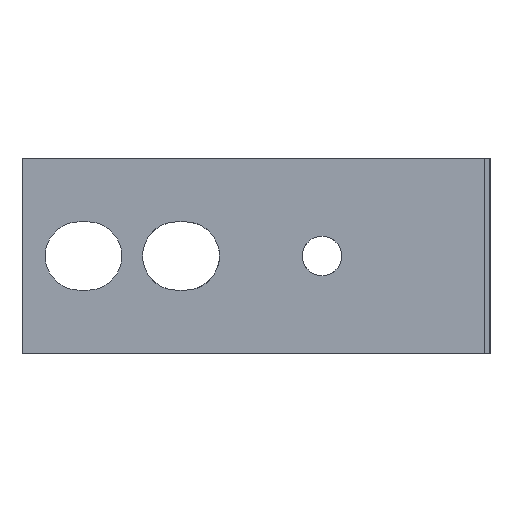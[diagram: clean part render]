
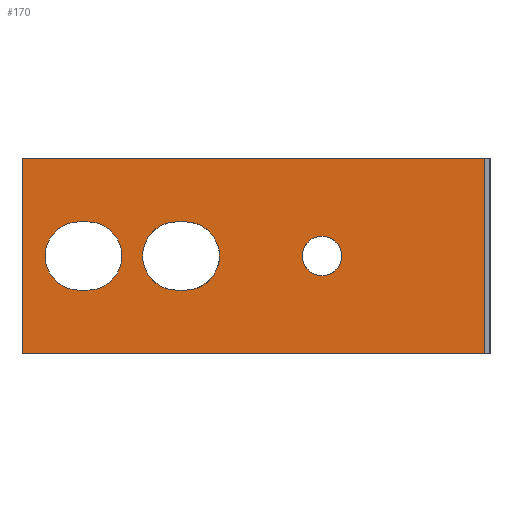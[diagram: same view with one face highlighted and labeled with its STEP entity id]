
A CAD part, left-side view. The second image highlights one B-rep face of the part: STEP entity #170.
In plain terms, the highlighted planar face has unit normal (-1, 0, 0).
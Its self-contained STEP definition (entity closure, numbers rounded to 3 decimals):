
#160 = EDGE_CURVE( '', #166, #268, #448, .T. );
#164 = EDGE_CURVE( '', #288, #300, #453, .T. );
#166 = VERTEX_POINT( '', #455 );
#170 = ADVANCED_FACE( '', ( #460, #461, #462, #463 ), #464, .T. );
#186 = VERTEX_POINT( '', #480 );
#190 = EDGE_CURVE( '', #300, #288, #484, .T. );
#204 = EDGE_CURVE( '', #272, #226, #500, .T. );
#212 = VERTEX_POINT( '', #511 );
#218 = VERTEX_POINT( '', #517 );
#226 = VERTEX_POINT( '', #525 );
#236 = EDGE_CURVE( '', #212, #186, #536, .T. );
#242 = VERTEX_POINT( '', #543 );
#246 = VERTEX_POINT( '', #547 );
#250 = EDGE_CURVE( '', #226, #306, #551, .T. );
#268 = VERTEX_POINT( '', #570 );
#272 = VERTEX_POINT( '', #575 );
#288 = VERTEX_POINT( '', #595 );
#290 = EDGE_CURVE( '', #388, #268, #597, .T. );
#300 = VERTEX_POINT( '', #607 );
#302 = EDGE_CURVE( '', #186, #218, #609, .T. );
#306 = VERTEX_POINT( '', #615 );
#322 = EDGE_CURVE( '', #218, #242, #631, .T. );
#324 = EDGE_CURVE( '', #242, #212, #633, .T. );
#374 = EDGE_CURVE( '', #246, #166, #689, .T. );
#378 = EDGE_CURVE( '', #400, #272, #693, .T. );
#388 = VERTEX_POINT( '', #703 );
#400 = VERTEX_POINT( '', #715 );
#420 = EDGE_CURVE( '', #246, #388, #736, .T. );
#426 = EDGE_CURVE( '', #306, #400, #742, .T. );
#448 = LINE( '', #755, #756 );
#453 = CIRCLE( '', #762, 1.825 );
#455 = CARTESIAN_POINT( '', ( 0.007, 27.674, -9. ) );
#460 = FACE_BOUND( '', #769, .T. );
#461 = FACE_BOUND( '', #770, .T. );
#462 = FACE_BOUND( '', #771, .T. );
#463 = FACE_OUTER_BOUND( '', #772, .T. );
#464 = PLANE( '', #773 );
#480 = CARTESIAN_POINT( '', ( 0.007, 13.4, -3.15 ) );
#484 = CIRCLE( '', #815, 1.825 );
#500 = CIRCLE( '', #835, 3.15 );
#511 = CARTESIAN_POINT( '', ( 0.007, 12.6, -3.15 ) );
#517 = CARTESIAN_POINT( '', ( 0.007, 13.4, 3.15 ) );
#525 = CARTESIAN_POINT( '', ( 0.007, 22.4, 3.15 ) );
#536 = LINE( '', #883, #884 );
#543 = CARTESIAN_POINT( '', ( 0.007, 12.6, 3.15 ) );
#547 = CARTESIAN_POINT( '', ( 0.007, 27.674, 9. ) );
#551 = LINE( '', #904, #905 );
#570 = CARTESIAN_POINT( '', ( 0.007, -15.013, -9. ) );
#575 = CARTESIAN_POINT( '', ( 0.007, 22.4, -3.15 ) );
#595 = CARTESIAN_POINT( '', ( 0.007, 0., -1.825 ) );
#597 = LINE( '', #960, #961 );
#607 = CARTESIAN_POINT( '', ( 0.007, 0., 1.825 ) );
#609 = CIRCLE( '', #976, 3.15 );
#615 = CARTESIAN_POINT( '', ( 0.007, 21.6, 3.15 ) );
#631 = LINE( '', #1044, #1045 );
#633 = CIRCLE( '', #1048, 3.15 );
#689 = LINE( '', #1128, #1129 );
#693 = LINE( '', #1135, #1136 );
#703 = CARTESIAN_POINT( '', ( 0.007, -15.013, 9. ) );
#715 = CARTESIAN_POINT( '', ( 0.007, 21.6, -3.15 ) );
#736 = LINE( '', #1250, #1251 );
#742 = CIRCLE( '', #1262, 3.15 );
#755 = CARTESIAN_POINT( '', ( 0.007, 27.674, -9. ) );
#756 = VECTOR( '', #1271, 1. );
#762 = AXIS2_PLACEMENT_3D( '', #1280, #1281, #1282 );
#769 = EDGE_LOOP( '', ( #1292, #1293, #1294, #1295 ) );
#770 = EDGE_LOOP( '', ( #1296, #1297, #1298, #1299 ) );
#771 = EDGE_LOOP( '', ( #1300, #1301 ) );
#772 = EDGE_LOOP( '', ( #1302, #1303, #1304, #1305 ) );
#773 = AXIS2_PLACEMENT_3D( '', #1306, #1307, #1308 );
#815 = AXIS2_PLACEMENT_3D( '', #1313, #1314, #1315 );
#835 = AXIS2_PLACEMENT_3D( '', #1336, #1337, #1338 );
#883 = CARTESIAN_POINT( '', ( 0.007, 20.537, -3.15 ) );
#884 = VECTOR( '', #1380, 1. );
#904 = CARTESIAN_POINT( '', ( 0.007, 24.637, 3.15 ) );
#905 = VECTOR( '', #1392, 1. );
#960 = CARTESIAN_POINT( '', ( 0.007, -15.013, 9. ) );
#961 = VECTOR( '', #1447, 1. );
#976 = AXIS2_PLACEMENT_3D( '', #1449, #1450, #1451 );
#1044 = CARTESIAN_POINT( '', ( 0.007, 20.137, 3.15 ) );
#1045 = VECTOR( '', #1469, 1. );
#1048 = AXIS2_PLACEMENT_3D( '', #1470, #1471, #1472 );
#1128 = CARTESIAN_POINT( '', ( 0.007, 27.674, 9. ) );
#1129 = VECTOR( '', #1553, 1. );
#1135 = CARTESIAN_POINT( '', ( 0.007, 25.037, -3.15 ) );
#1136 = VECTOR( '', #1557, 1. );
#1250 = CARTESIAN_POINT( '', ( 0.007, 27.674, 9. ) );
#1251 = VECTOR( '', #1583, 1. );
#1262 = AXIS2_PLACEMENT_3D( '', #1586, #1587, #1588 );
#1271 = DIRECTION( '', ( 0., -1., 0. ) );
#1280 = CARTESIAN_POINT( '', ( 0.007, 0., 0. ) );
#1281 = DIRECTION( '', ( 1., 0., 0. ) );
#1282 = DIRECTION( '', ( 0., 0., -1. ) );
#1292 = ORIENTED_EDGE( '', *, *, #204, .T. );
#1293 = ORIENTED_EDGE( '', *, *, #250, .T. );
#1294 = ORIENTED_EDGE( '', *, *, #426, .T. );
#1295 = ORIENTED_EDGE( '', *, *, #378, .T. );
#1296 = ORIENTED_EDGE( '', *, *, #302, .T. );
#1297 = ORIENTED_EDGE( '', *, *, #322, .T. );
#1298 = ORIENTED_EDGE( '', *, *, #324, .T. );
#1299 = ORIENTED_EDGE( '', *, *, #236, .T. );
#1300 = ORIENTED_EDGE( '', *, *, #190, .T. );
#1301 = ORIENTED_EDGE( '', *, *, #164, .T. );
#1302 = ORIENTED_EDGE( '', *, *, #160, .T. );
#1303 = ORIENTED_EDGE( '', *, *, #290, .F. );
#1304 = ORIENTED_EDGE( '', *, *, #420, .F. );
#1305 = ORIENTED_EDGE( '', *, *, #374, .T. );
#1306 = CARTESIAN_POINT( '', ( 0.007, 27.674, 9. ) );
#1307 = DIRECTION( '', ( -1., 0., 0. ) );
#1308 = DIRECTION( '', ( 0., 1., 0. ) );
#1313 = CARTESIAN_POINT( '', ( 0.007, 0., 0. ) );
#1314 = DIRECTION( '', ( 1., 0., 0. ) );
#1315 = DIRECTION( '', ( 0., 0., -1. ) );
#1336 = CARTESIAN_POINT( '', ( 0.007, 22.4, 0. ) );
#1337 = DIRECTION( '', ( 1., 0., 0. ) );
#1338 = DIRECTION( '', ( 0., 0., -1. ) );
#1380 = DIRECTION( '', ( 0., 1., 0. ) );
#1392 = DIRECTION( '', ( 0., -1., 0. ) );
#1447 = DIRECTION( '', ( 0., 0., -1. ) );
#1449 = CARTESIAN_POINT( '', ( 0.007, 13.4, 0. ) );
#1450 = DIRECTION( '', ( 1., 0., 0. ) );
#1451 = DIRECTION( '', ( 0., 0., -1. ) );
#1469 = DIRECTION( '', ( 0., -1., 0. ) );
#1470 = CARTESIAN_POINT( '', ( 0.007, 12.6, 0. ) );
#1471 = DIRECTION( '', ( 1., 0., 0. ) );
#1472 = DIRECTION( '', ( 0., 0., 1. ) );
#1553 = DIRECTION( '', ( 0., 0., -1. ) );
#1557 = DIRECTION( '', ( 0., 1., 0. ) );
#1583 = DIRECTION( '', ( 0., -1., 0. ) );
#1586 = CARTESIAN_POINT( '', ( 0.007, 21.6, 0. ) );
#1587 = DIRECTION( '', ( 1., 0., 0. ) );
#1588 = DIRECTION( '', ( 0., 0., 1. ) );
